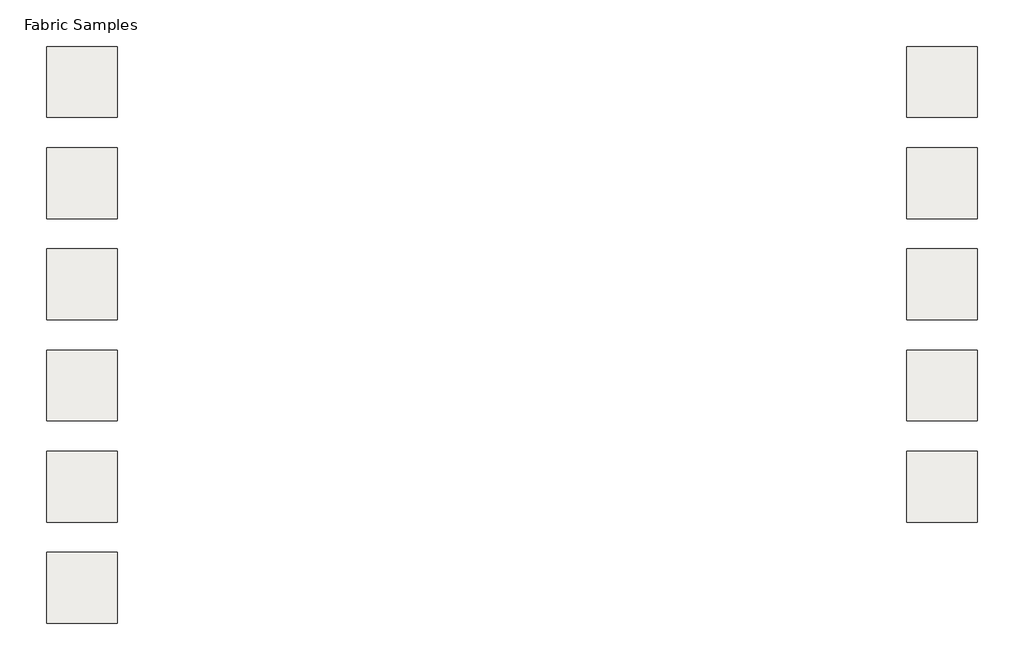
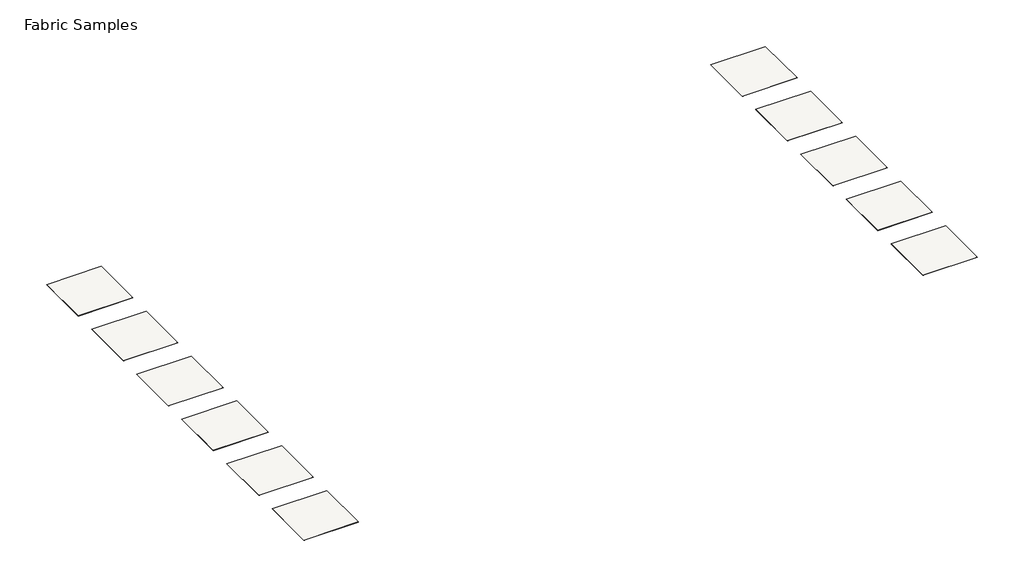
# One storey: 11 coverings.
"""IFC4 building model written with IfcOpenShell, lengths in millimetres."""

from ifc_helpers import new_model, si_unit, frame, origin, place, context, project, spatial, polyline, outline, extrude, element, save

model = new_model("IFC4")

# Units and contexts
model_context = context("Model", 3, world=origin())
ifc_project = project(units=[si_unit("LENGTHUNIT", "METRE", prefix="MILLI")], contexts=[model_context])

# Site, building, storey
site = spatial("IfcSite", under=ifc_project)
building = spatial("IfcBuilding", under=site)
storey = spatial("IfcBuildingStorey", under=building, Name="Fabric Samples", Elevation=0.0)

# Coverings
placement = place(None, origin())
element("IfcCovering", 1, ObjectType="CamiraFabrics_TxtlRllCvrngs_Target_Belize_PUK05", at=placement, inside=storey, context=model_context, shape_type="SweptSolid", body=[
    extrude(outline(polyline([(515.5073044, 1029.1514654), (515.5073044, -370.8485346), (-884.4926956, -370.8485346), (-884.4926956, 1029.1514654), (515.5073044, 1029.1514654)])), frame((0.0, 0.0, -2.0), z_axis=(0.0, 0.0, 1.0), x_axis=(1.0, 0.0, 0.0)), (0.0, 0.0, 1.0), 2.0),
])
element("IfcCovering", 2, ObjectType="CamiraFabrics_TxtlRllCvrngs_Target_Havana_PUK09", at=placement, inside=storey, context=model_context, shape_type="SweptSolid", body=[
    extrude(outline(polyline([(515.5073044, -970.8485346), (515.5073044, -2370.8485346), (-884.4926956, -2370.8485346), (-884.4926956, -970.8485346), (515.5073044, -970.8485346)])), frame((0.0, 0.0, -2.0), z_axis=(0.0, 0.0, 1.0), x_axis=(1.0, 0.0, 0.0)), (0.0, 0.0, 1.0), 2.0),
])
element("IfcCovering", 3, ObjectType="CamiraFabrics_TxtlRllCvrngs_Target_Ocean_PUK10", at=placement, inside=storey, context=model_context, shape_type="SweptSolid", body=[
    extrude(outline(polyline([(515.5073044, -2970.8485346), (515.5073044, -4370.8485346), (-884.4926956, -4370.8485346), (-884.4926956, -2970.8485346), (515.5073044, -2970.8485346)])), frame((0.0, 0.0, -2.0), z_axis=(0.0, 0.0, 1.0), x_axis=(1.0, 0.0, 0.0)), (0.0, 0.0, 1.0), 2.0),
])
element("IfcCovering", 4, ObjectType="CamiraFabrics_TxtlRllCvrngs_Target_Montserrat_PUK11", at=placement, inside=storey, context=model_context, shape_type="SweptSolid", body=[
    extrude(outline(polyline([(515.5073044, -4970.8485346), (515.5073044, -6370.8485346), (-884.4926956, -6370.8485346), (-884.4926956, -4970.8485346), (515.5073044, -4970.8485346)])), frame((0.0, 0.0, -2.0), z_axis=(0.0, 0.0, 1.0), x_axis=(1.0, 0.0, 0.0)), (0.0, 0.0, 1.0), 2.0),
])
element("IfcCovering", 5, ObjectType="CamiraFabrics_TxtlRllCvrngs_Target_Costa_PUK26", at=placement, inside=storey, context=model_context, shape_type="SweptSolid", body=[
    extrude(outline(polyline([(515.5073044, -6970.8485346), (515.5073044, -8370.8485346), (-884.4926956, -8370.8485346), (-884.4926956, -6970.8485346), (515.5073044, -6970.8485346)])), frame((0.0, 0.0, -2.0), z_axis=(0.0, 0.0, 1.0), x_axis=(1.0, 0.0, 0.0)), (0.0, 0.0, 1.0), 2.0),
])
element("IfcCovering", 6, ObjectType="CamiraFabrics_TxtlRllCvrngs_Target_Sombrero_PUK46", at=placement, inside=storey, context=model_context, shape_type="SweptSolid", body=[
    extrude(outline(polyline([(515.5073044, -8970.8485346), (515.5073044, -10370.8485346), (-884.4926956, -10370.8485346), (-884.4926956, -8970.8485346), (515.5073044, -8970.8485346)])), frame((0.0, 0.0, -2.0), z_axis=(0.0, 0.0, 1.0), x_axis=(1.0, 0.0, 0.0)), (0.0, 0.0, 1.0), 2.0),
])
element("IfcCovering", 7, ObjectType="CamiraFabrics_TxtlRllCvrngs_Target_Osumi_PUK71", at=placement, inside=storey, context=model_context, shape_type="SweptSolid", body=[
    extrude(outline(polyline([(17515.5073044, 1029.1514654), (17515.5073044, -370.8485346), (16115.5073044, -370.8485346), (16115.5073044, 1029.1514654), (17515.5073044, 1029.1514654)])), frame((0.0, 0.0, -2.0), z_axis=(0.0, 0.0, 1.0), x_axis=(1.0, 0.0, 0.0)), (0.0, 0.0, 1.0), 2.0),
])
element("IfcCovering", 8, ObjectType="CamiraFabrics_TxtlRllCvrngs_Target_Blizzard_PUK81", at=placement, inside=storey, context=model_context, shape_type="SweptSolid", body=[
    extrude(outline(polyline([(17515.5073044, -970.8485346), (17515.5073044, -2370.8485346), (16115.5073044, -2370.8485346), (16115.5073044, -970.8485346), (17515.5073044, -970.8485346)])), frame((0.0, 0.0, -2.0), z_axis=(0.0, 0.0, 1.0), x_axis=(1.0, 0.0, 0.0)), (0.0, 0.0, 1.0), 2.0),
])
element("IfcCovering", 9, ObjectType="CamiraFabrics_TxtlRllCvrngs_Target_Scuba_PUK82", at=placement, inside=storey, context=model_context, shape_type="SweptSolid", body=[
    extrude(outline(polyline([(17515.5073044, -2970.8485346), (17515.5073044, -4370.8485346), (16115.5073044, -4370.8485346), (16115.5073044, -2970.8485346), (17515.5073044, -2970.8485346)])), frame((0.0, 0.0, -2.0), z_axis=(0.0, 0.0, 1.0), x_axis=(1.0, 0.0, 0.0)), (0.0, 0.0, 1.0), 2.0),
])
element("IfcCovering", 10, ObjectType="CamiraFabrics_TxtlRllCvrngs_Target_Tarot_PUK84", at=placement, inside=storey, context=model_context, shape_type="SweptSolid", body=[
    extrude(outline(polyline([(17515.5073044, -4970.8485346), (17515.5073044, -6370.8485346), (16115.5073044, -6370.8485346), (16115.5073044, -4970.8485346), (17515.5073044, -4970.8485346)])), frame((0.0, 0.0, -2.0), z_axis=(0.0, 0.0, 1.0), x_axis=(1.0, 0.0, 0.0)), (0.0, 0.0, 1.0), 2.0),
])
element("IfcCovering", 11, ObjectType="CamiraFabrics_TxtlRllCvrngs_Target_Slip_PUK94", at=placement, inside=storey, context=model_context, shape_type="SweptSolid", body=[
    extrude(outline(polyline([(17515.5073044, -6970.8485346), (17515.5073044, -8370.8485346), (16115.5073044, -8370.8485346), (16115.5073044, -6970.8485346), (17515.5073044, -6970.8485346)])), frame((0.0, 0.0, -2.0), z_axis=(0.0, 0.0, 1.0), x_axis=(1.0, 0.0, 0.0)), (0.0, 0.0, 1.0), 2.0),
])

save(model, "model.ifc")
